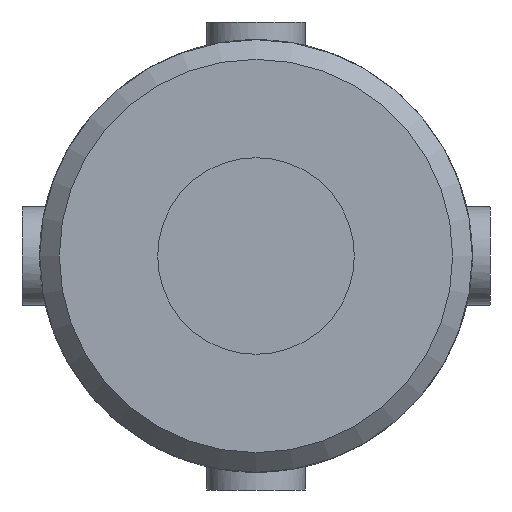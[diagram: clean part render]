
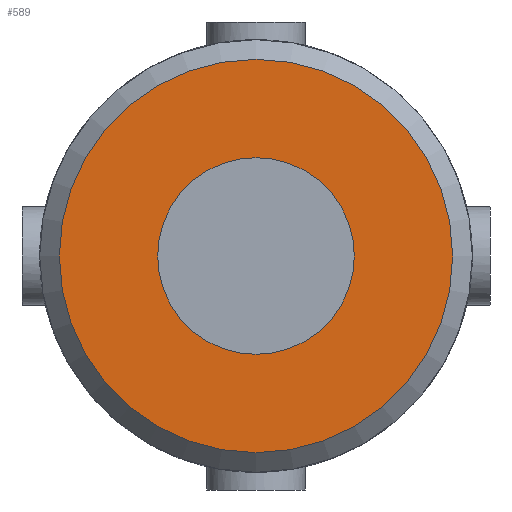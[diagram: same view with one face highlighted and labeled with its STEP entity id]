
A CAD part, left-side view. The second image highlights one B-rep face of the part: STEP entity #589.
In plain terms, the highlighted planar face has unit normal (-1, 0, 0) as drawn and (0, -1, 0) by its records, which use the part's own axes.
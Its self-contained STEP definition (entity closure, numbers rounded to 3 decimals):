
#121=PLANE('',#644);
#145=FACE_BOUND('',#221,.T.);
#168=FACE_OUTER_BOUND('',#220,.T.);
#220=EDGE_LOOP('',(#468));
#221=EDGE_LOOP('',(#469));
#257=CIRCLE('',#639,5.);
#259=CIRCLE('',#642,10.);
#292=VERTEX_POINT('',#908);
#294=VERTEX_POINT('',#913);
#354=EDGE_CURVE('',#292,#292,#257,.T.);
#356=EDGE_CURVE('',#294,#294,#259,.T.);
#468=ORIENTED_EDGE('',*,*,#356,.F.);
#469=ORIENTED_EDGE('',*,*,#354,.T.);
#589=ADVANCED_FACE('',(#168,#145),#121,.F.);
#639=AXIS2_PLACEMENT_3D('',#909,#749,#750);
#642=AXIS2_PLACEMENT_3D('',#914,#755,#756);
#644=AXIS2_PLACEMENT_3D('',#1082,#763,#764);
#749=DIRECTION('center_axis',(0.,1.,0.));
#750=DIRECTION('ref_axis',(-1.,0.,0.));
#755=DIRECTION('center_axis',(0.,1.,0.));
#756=DIRECTION('ref_axis',(1.,0.,0.));
#763=DIRECTION('center_axis',(0.,1.,0.));
#764=DIRECTION('ref_axis',(0.,0.,1.));
#908=CARTESIAN_POINT('',(5.,-29.5,0.));
#909=CARTESIAN_POINT('Origin',(0.,-29.5,0.));
#913=CARTESIAN_POINT('',(-10.,-29.5,0.));
#914=CARTESIAN_POINT('Origin',(0.,-29.5,0.));
#1082=CARTESIAN_POINT('Origin',(0.,-29.5,0.));
